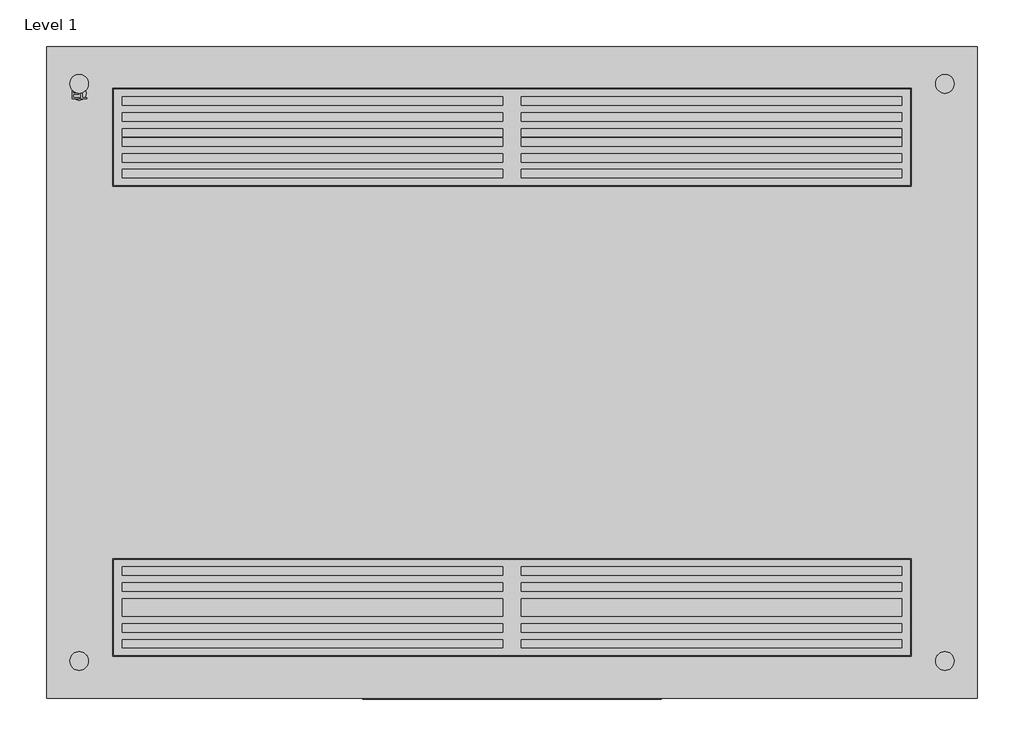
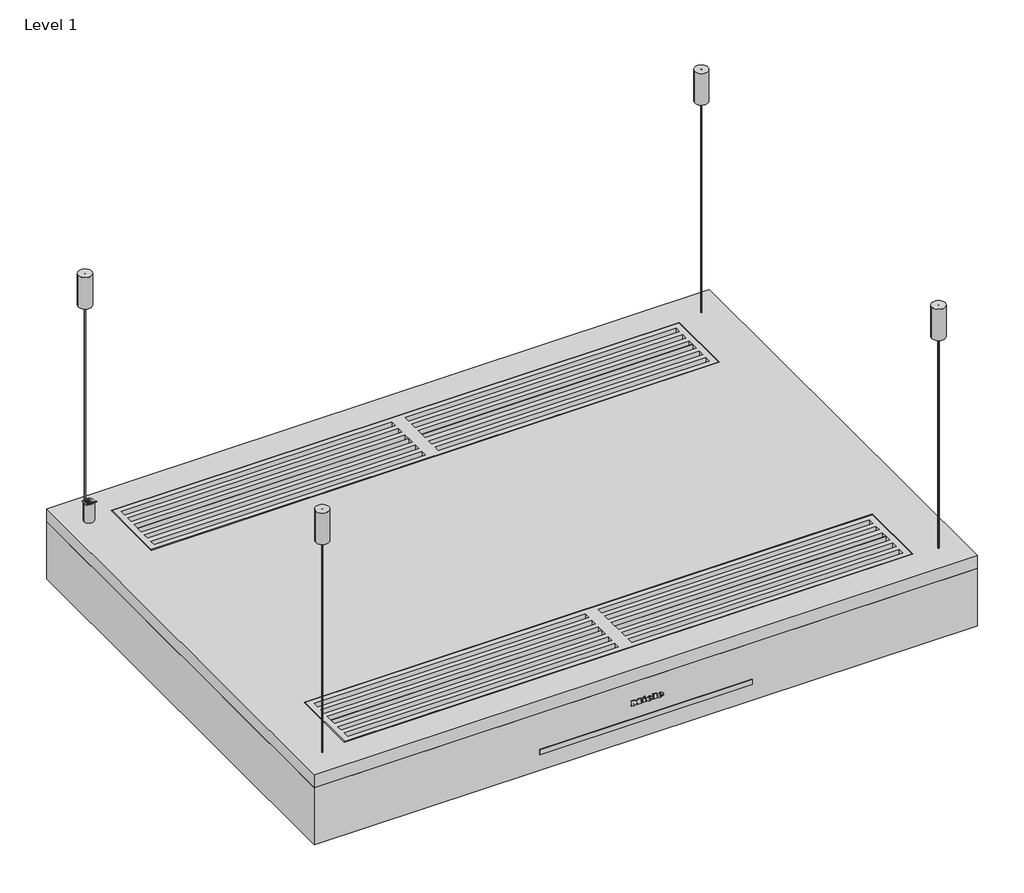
# One storey: 1 proxy.
"""IFC4 building model written with IfcOpenShell, lengths in millimetres."""

from ifc_helpers import new_model, si_unit, origin, place, context, project, spatial, transform, mapped, element, save
from components import specialty_equipment_f2d72708

model = new_model("IFC4")

# Units and contexts
model_context = context("Model", 3, world=origin())
ifc_project = project(units=[si_unit("LENGTHUNIT", "METRE", prefix="MILLI")], contexts=[model_context])

# Site, building, storey
site = spatial("IfcSite", under=ifc_project)
building = spatial("IfcBuilding", under=site)
storey = spatial("IfcBuildingStorey", under=building, Name="Level 1", Elevation=0.0)

# Proxy
placement = place(None, origin())
specialty_equipment_shape = specialty_equipment_f2d72708(model_context)
element("IfcBuildingElementProxy", 1, Name="10928130_B_DA6708D_EDST : 28670855_B_10928130_DA6708D_EDST", ObjectType="10928130_B_DA6708D_EDST : 28670855_B_10928130_DA6708D_EDST", at=placement, inside=storey, context=model_context, shape_type="MappedRepresentation", body=[
    mapped(specialty_equipment_shape, transform((0.0, 0.0, 0.0), x_axis=(1.0, 0.0, 0.0), y_axis=(0.0, 1.0, 0.0), z_axis=(0.0, 0.0, 1.0))),
])

save(model, "model.ifc")
